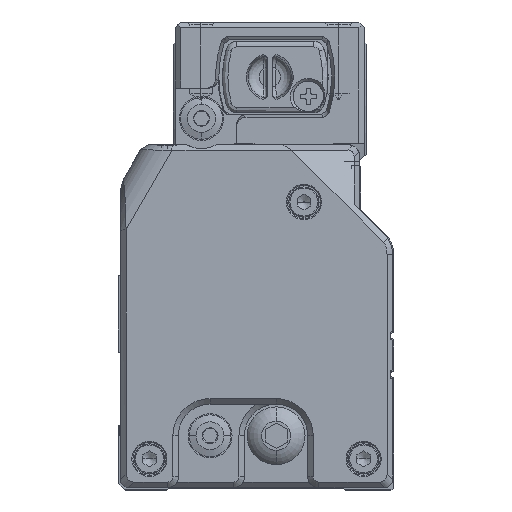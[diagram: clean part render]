
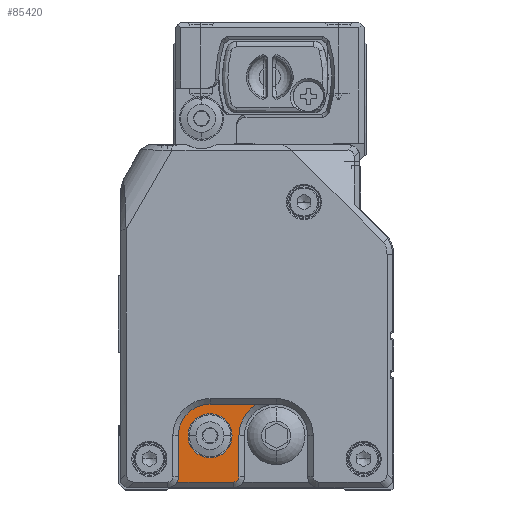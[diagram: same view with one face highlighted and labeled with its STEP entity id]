
A CAD part, left-side view. The second image highlights one B-rep face of the part: STEP entity #85420.
In plain terms, the highlighted planar face has unit normal (-1, 0, 0) as drawn and (1, 0, 0) by its records, which use the part's own axes.
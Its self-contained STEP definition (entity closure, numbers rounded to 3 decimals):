
#83680=CARTESIAN_POINT('',(864.177,8.212,
10.598));
#83690=VERTEX_POINT('',#83680);
#83720=CARTESIAN_POINT('',(864.177,10.212,
10.598));
#83730=DIRECTION('',(-1.,0.,0.));
#83740=DIRECTION('',(0.,1.,0.));
#83750=AXIS2_PLACEMENT_3D('',#83720,#83730,#83740);
#83760=CIRCLE('',#83750,2.);
#83770=CARTESIAN_POINT('',(864.177,8.48,
11.598));
#83780=VERTEX_POINT('',#83770);
#83790=EDGE_CURVE('',#83690,#83780,#83760,.T.);
#84080=CARTESIAN_POINT('',(864.177,8.212,
3.148));
#84090=VERTEX_POINT('',#84080);
#84140=CARTESIAN_POINT('',(864.177,8.212,
3.148));
#84150=DIRECTION('',(0.,0.,1.));
#84160=VECTOR('',#84150,1.);
#84170=LINE('',#84140,#84160);
#84180=EDGE_CURVE('',#84090,#83690,#84170,.T.);
#84420=CARTESIAN_POINT('',(864.177,2.462,
3.148));
#84430=DIRECTION('',(-1.,0.,0.));
#84440=DIRECTION('',(0.,1.,0.));
#84450=AXIS2_PLACEMENT_3D('',#84420,#84430,#84440);
#84460=CIRCLE('',#84450,5.75);
#84470=CARTESIAN_POINT('',(864.177,2.462,
-2.602));
#84480=VERTEX_POINT('',#84470);
#84490=EDGE_CURVE('',#84090,#84480,#84460,.T.);
#84770=CARTESIAN_POINT('',(864.177,-5.938,
-12.8));
#84780=DIRECTION('',(-1.,0.,0.));
#84790=DIRECTION('',(0.,0.,-1.));
#84800=AXIS2_PLACEMENT_3D('',#84770,#84780,#84790);
#84810=PLANE('',#84800);
#84820=CARTESIAN_POINT('',(864.177,4.212,
11.598));
#84830=DIRECTION('',(0.,-1.,0.));
#84840=VECTOR('',#84830,1.);
#84850=LINE('',#84820,#84840);
#84860=CARTESIAN_POINT('',(864.177,-1.788,
11.598));
#84870=VERTEX_POINT('',#84860);
#84880=EDGE_CURVE('',#83780,#84870,#84850,.T.);
#84890=ORIENTED_EDGE('',*,*,#84880,.T.);
#84900=ORIENTED_EDGE('',*,*,#83790,.T.);
#84910=ORIENTED_EDGE('',*,*,#84180,.T.);
#84920=ORIENTED_EDGE('',*,*,#84490,.F.);
#84930=CARTESIAN_POINT('',(864.177,-5.888,
-2.602));
#84940=DIRECTION('',(0.,1.,0.));
#84950=VECTOR('',#84940,1.);
#84960=LINE('',#84930,#84950);
#84970=CARTESIAN_POINT('',(864.177,-6.002,
-2.602));
#84980=VERTEX_POINT('',#84970);
#84990=EDGE_CURVE('',#84980,#84480,#84960,.T.);
#85000=ORIENTED_EDGE('',*,*,#84990,.T.);
#85010=CARTESIAN_POINT('',(864.177,-9.538,
3.148));
#85020=DIRECTION('',(-1.,0.,0.));
#85030=DIRECTION('',(0.,1.,0.));
#85040=AXIS2_PLACEMENT_3D('',#85010,#85020,#85030);
#85050=CIRCLE('',#85040,6.75);
#85060=CARTESIAN_POINT('',(864.177,-2.788,
3.148));
#85070=VERTEX_POINT('',#85060);
#85080=EDGE_CURVE('',#85070,#84980,#85050,.T.);
#85090=ORIENTED_EDGE('',*,*,#85080,.T.);
#85100=CARTESIAN_POINT('',(864.177,-2.788,
6.873));
#85110=DIRECTION('',(0.,0.,-1.));
#85120=VECTOR('',#85110,1.);
#85130=LINE('',#85100,#85120);
#85140=CARTESIAN_POINT('',(864.177,-2.788,
10.598));
#85150=VERTEX_POINT('',#85140);
#85160=EDGE_CURVE('',#85150,#85070,#85130,.T.);
#85170=ORIENTED_EDGE('',*,*,#85160,.T.);
#85180=CARTESIAN_POINT('',(864.177,-1.788,
10.598));
#85190=DIRECTION('',(-1.,0.,0.));
#85200=DIRECTION('',(0.,1.,0.));
#85210=AXIS2_PLACEMENT_3D('',#85180,#85190,#85200);
#85220=CIRCLE('',#85210,1.);
#85230=EDGE_CURVE('',#85150,#84870,#85220,.T.);
#85240=ORIENTED_EDGE('',*,*,#85230,.F.);
#85250=EDGE_LOOP('',(#85240,#85170,#85090,#85000,#84920,#84910,#84900,
#84890));
#85260=FACE_OUTER_BOUND('',#85250,.T.);
#85270=CARTESIAN_POINT('',(864.177,2.462,
3.148));
#85280=DIRECTION('',(-1.,0.,0.));
#85290=DIRECTION('',(0.,0.,-1.));
#85300=AXIS2_PLACEMENT_3D('',#85270,#85280,#85290);
#85310=CIRCLE('',#85300,4.);
#85320=CARTESIAN_POINT('',(864.177,2.462,
-0.852));
#85330=VERTEX_POINT('',#85320);
#85340=CARTESIAN_POINT('',(864.177,2.462,
7.148));
#85350=VERTEX_POINT('',#85340);
#85360=EDGE_CURVE('',#85330,#85350,#85310,.T.);
#85370=ORIENTED_EDGE('',*,*,#85360,.T.);
#85380=EDGE_CURVE('',#85350,#85330,#85310,.T.);
#85390=ORIENTED_EDGE('',*,*,#85380,.T.);
#85400=EDGE_LOOP('',(#85390,#85370));
#85410=FACE_BOUND('',#85400,.T.);
#85420=ADVANCED_FACE('',(#85260,#85410),#84810,.F.);
